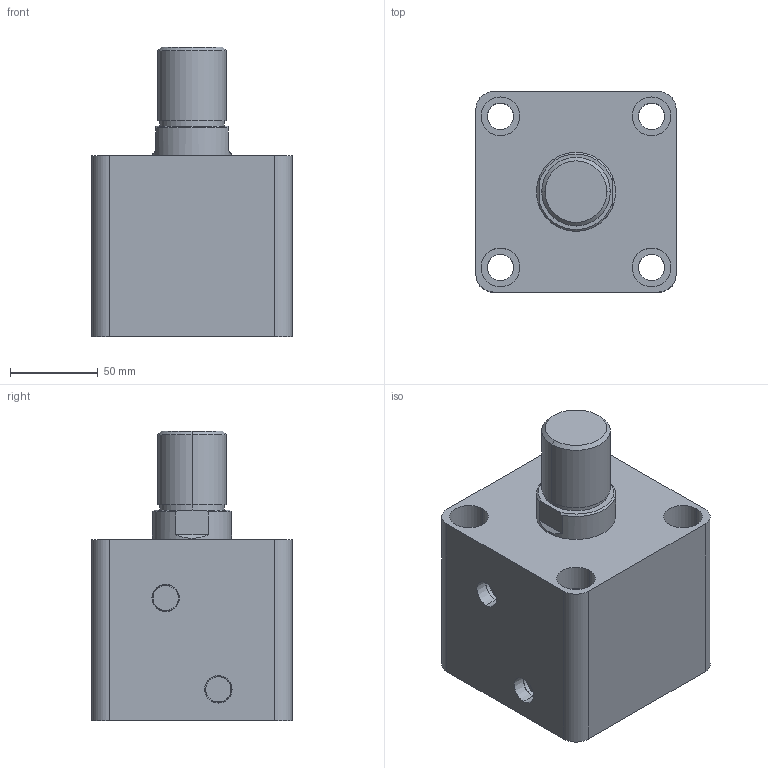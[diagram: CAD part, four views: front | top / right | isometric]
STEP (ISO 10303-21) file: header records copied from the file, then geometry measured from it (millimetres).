
FILE_DESCRIPTION (( 'STEP AP203' ), '1' );
FILE_NAME ('HTB-SD80-25W.STEP', '2019-10-07T08:17:05', ( '微软用户' ), ( '微软中国' ), 'SwSTEP 2.0', 'SolidWorks 2012', '' );
FILE_SCHEMA (( 'CONFIG_CONTROL_DESIGN' ));
Length unit declared in the file: millimetre
Products named in the file (3): HTB-SD80-25掛极; HTB-SD80-25W; HTB-SD80-25W活塞杆
Assembly tree (2 placements, depth 2):
  HTB-SD80-25W
    HTB-SD80-25掛极
    HTB-SD80-25W活塞杆
Bounding box: 114 x 114 x 165 mm (x, y, z)
Volume: 1222176.8 mm3; surface area: 151681.1 mm2
Topology: 2 solids, 2 shells, 87 faces, 190 edges, 124 vertices
Faces by surface type: cylinder 44, plane 29, cone 8, torus 6
Entity records: 2761 total; most frequent: DIRECTION 478, CARTESIAN_POINT 434, ORIENTED_EDGE 380, AXIS2_PLACEMENT_3D 204, EDGE_CURVE 190, VERTEX_POINT 124, EDGE_LOOP 112, CIRCLE 112
